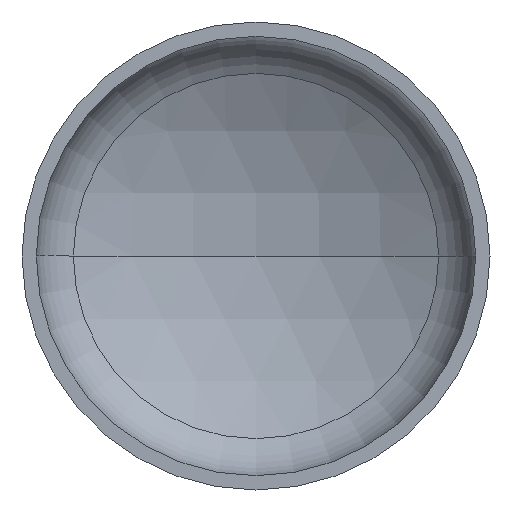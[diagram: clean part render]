
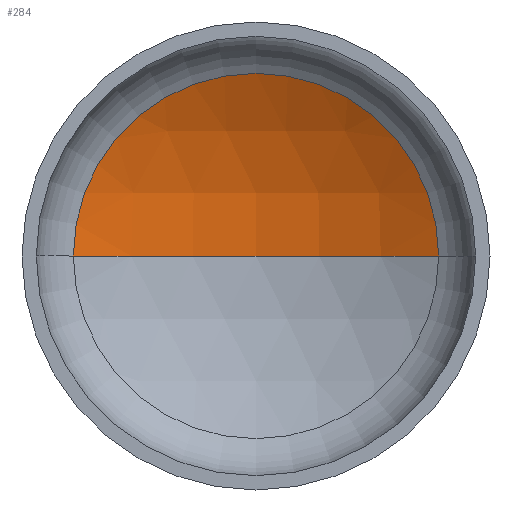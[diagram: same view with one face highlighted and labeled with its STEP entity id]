
A CAD part, front view. The second image highlights one B-rep face of the part: STEP entity #284.
In plain terms, the highlighted spherical face has radius 2720 mm.
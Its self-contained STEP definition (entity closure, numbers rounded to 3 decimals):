
#3 = FACE_OUTER_BOUND ( 'NONE', #7, .T. ) ;
#7 = EDGE_LOOP ( 'NONE', ( #182, #110, #128 ) ) ;
#19 = VERTEX_POINT ( 'NONE', #253 ) ;
#23 = CIRCLE ( 'NONE', #114, 2720. ) ;
#25 = AXIS2_PLACEMENT_3D ( 'NONE', #115, #74, #112 ) ;
#27 = VERTEX_POINT ( 'NONE', #266 ) ;
#47 = DIRECTION ( 'NONE',  ( 0., 0., -1. ) ) ;
#74 = DIRECTION ( 'NONE',  ( 0., 0., 1. ) ) ;
#98 = AXIS2_PLACEMENT_3D ( 'NONE', #392, #47, #397 ) ;
#110 = ORIENTED_EDGE ( 'NONE', *, *, #209, .T. ) ;
#112 = DIRECTION ( 'NONE',  ( 1., 0., 0. ) ) ;
#114 = AXIS2_PLACEMENT_3D ( 'NONE', #243, #242, #240 ) ;
#115 = CARTESIAN_POINT ( 'NONE',  ( 0., -1840.981, 0. ) ) ;
#119 = AXIS2_PLACEMENT_3D ( 'NONE', #264, #261, #281 ) ;
#128 = ORIENTED_EDGE ( 'NONE', *, *, #208, .T. ) ;
#182 = ORIENTED_EDGE ( 'NONE', *, *, #366, .F. ) ;
#208 = EDGE_CURVE ( 'NONE', #27, #215, #244, .T. ) ;
#209 = EDGE_CURVE ( 'NONE', #19, #27, #23, .T. ) ;
#215 = VERTEX_POINT ( 'NONE', #379 ) ;
#216 = CIRCLE ( 'NONE', #25, 2720. ) ;
#240 = DIRECTION ( 'NONE',  ( -1., 0., 0. ) ) ;
#242 = DIRECTION ( 'NONE',  ( 0., 0., -1. ) ) ;
#243 = CARTESIAN_POINT ( 'NONE',  ( 0., -1840.981, 0. ) ) ;
#244 = CIRCLE ( 'NONE', #119, 1327.162 ) ;
#253 = CARTESIAN_POINT ( 'NONE',  ( 0., 879.019, 0. ) ) ;
#261 = DIRECTION ( 'NONE',  ( 0., -1., 0. ) ) ;
#264 = CARTESIAN_POINT ( 'NONE',  ( 0., 533.264, 0. ) ) ;
#266 = CARTESIAN_POINT ( 'NONE',  ( 1327.162, 533.264, 0. ) ) ;
#281 = DIRECTION ( 'NONE',  ( 1., 0., 0. ) ) ;
#284 = ADVANCED_FACE ( 'NONE', ( #3 ), #288, .F. ) ;
#288 = SPHERICAL_SURFACE ( 'NONE', #98, 2720. ) ;
#366 = EDGE_CURVE ( 'NONE', #19, #215, #216, .T. ) ;
#379 = CARTESIAN_POINT ( 'NONE',  ( -1327.162, 533.264, 0. ) ) ;
#392 = CARTESIAN_POINT ( 'NONE',  ( 0., -1840.981, 0. ) ) ;
#397 = DIRECTION ( 'NONE',  ( -1., 0., 0. ) ) ;
